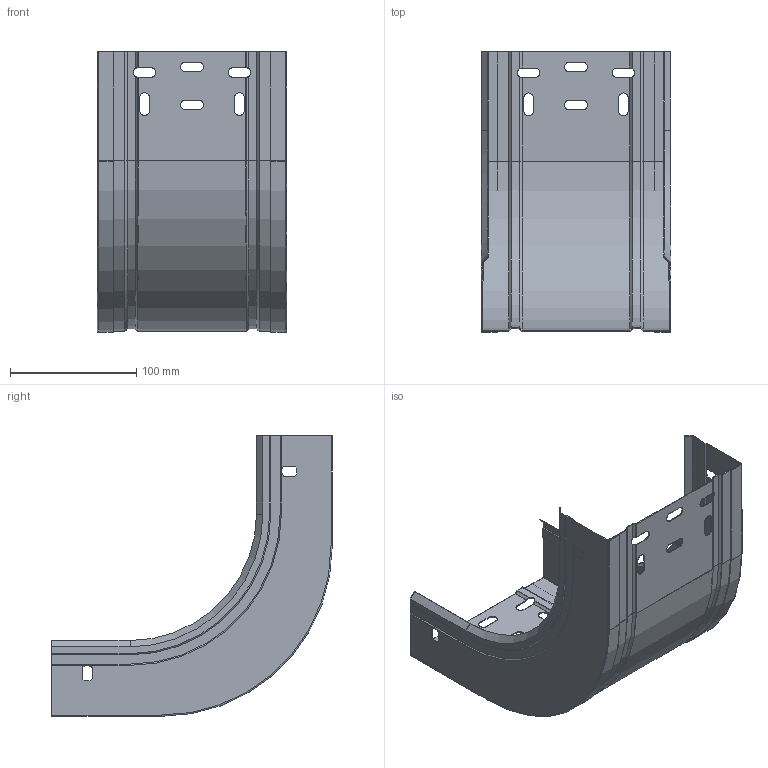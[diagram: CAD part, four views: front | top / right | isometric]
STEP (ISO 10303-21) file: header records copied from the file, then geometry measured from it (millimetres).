
FILE_DESCRIPTION (( 'STEP AP203' ), '1' );
FILE_NAME ('CCERC 150x60.STEP', '2020-02-12T12:04:40', ( '' ), ( '' ), 'SwSTEP 2.0', 'SolidWorks 2019', '' );
FILE_SCHEMA (( 'CONFIG_CONTROL_DESIGN' ));
Length unit declared in the file: millimetre
Products named in the file (3): ERE_BASE CC_150x60; CCERC 150x60; ERE_LATERAL CC_60
Assembly tree (3 placements, depth 2):
  CCERC 150x60
    ERE_BASE CC_150x60
    ERE_LATERAL CC_60  x2
Bounding box: 150 x 222 x 222 mm (x, y, z)
Volume: 87426.8 mm3; surface area: 221275.5 mm2
Topology: 3 solids, 3 shells, 234 faces, 642 edges, 402 vertices
Faces by surface type: plane 146, cylinder 62, cone 22, torus 4
Entity records: 6006 total; most frequent: CARTESIAN_POINT 1036, ORIENTED_EDGE 988, DIRECTION 969, EDGE_CURVE 494, LINE 353, VECTOR 353, VERTEX_POINT 311, AXIS2_PLACEMENT_3D 308
